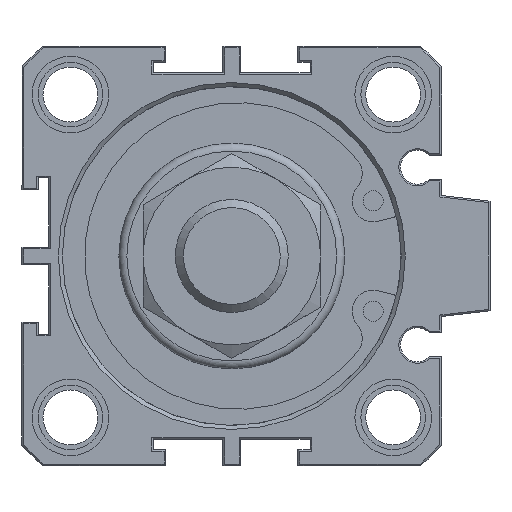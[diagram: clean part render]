
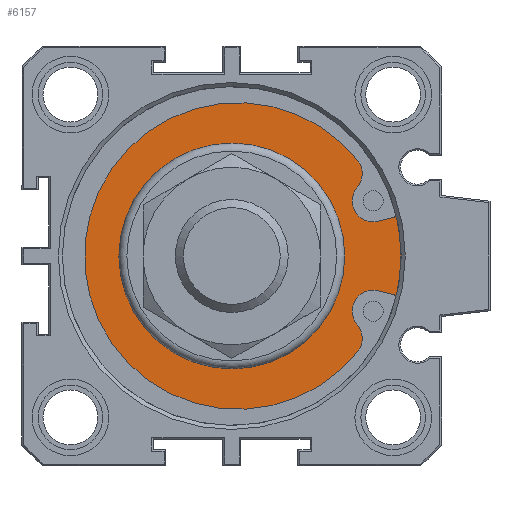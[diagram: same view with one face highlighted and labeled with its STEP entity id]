
A CAD part, front view. The second image highlights one B-rep face of the part: STEP entity #6157.
In plain terms, the highlighted planar face has unit normal (0, -1, 0).
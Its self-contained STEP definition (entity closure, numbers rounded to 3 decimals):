
#369=LINE('',#8753,#753);
#370=LINE('',#8765,#754);
#753=VECTOR('',#7401,1000.);
#754=VECTOR('',#7412,1000.);
#1378=ORIENTED_EDGE('',*,*,#2428,.F.);
#1379=ORIENTED_EDGE('',*,*,#2429,.F.);
#1380=ORIENTED_EDGE('',*,*,#2430,.T.);
#1381=ORIENTED_EDGE('',*,*,#2431,.T.);
#1382=ORIENTED_EDGE('',*,*,#2432,.T.);
#1383=ORIENTED_EDGE('',*,*,#2433,.T.);
#1384=ORIENTED_EDGE('',*,*,#2434,.T.);
#1385=ORIENTED_EDGE('',*,*,#2435,.T.);
#1386=ORIENTED_EDGE('',*,*,#2436,.T.);
#2428=EDGE_CURVE('',#2944,#2944,#3101,.F.);
#2429=EDGE_CURVE('',#2945,#2946,#3102,.T.);
#2430=EDGE_CURVE('',#2945,#2947,#369,.T.);
#2431=EDGE_CURVE('',#2947,#2948,#3103,.T.);
#2432=EDGE_CURVE('',#2948,#2949,#3104,.T.);
#2433=EDGE_CURVE('',#2949,#2950,#3105,.T.);
#2434=EDGE_CURVE('',#2950,#2951,#3106,.T.);
#2435=EDGE_CURVE('',#2951,#2952,#3107,.T.);
#2436=EDGE_CURVE('',#2952,#2946,#370,.T.);
#2944=VERTEX_POINT('',#8749);
#2945=VERTEX_POINT('',#8751);
#2946=VERTEX_POINT('',#8752);
#2947=VERTEX_POINT('',#8754);
#2948=VERTEX_POINT('',#8756);
#2949=VERTEX_POINT('',#8758);
#2950=VERTEX_POINT('',#8760);
#2951=VERTEX_POINT('',#8762);
#2952=VERTEX_POINT('',#8764);
#3101=CIRCLE('',#6528,14.);
#3102=CIRCLE('',#6529,22.25);
#3103=CIRCLE('',#6530,2.61);
#3104=CIRCLE('',#6531,2.61);
#3105=CIRCLE('',#6532,19.);
#3106=CIRCLE('',#6533,2.61);
#3107=CIRCLE('',#6534,2.61);
#3308=EDGE_LOOP('',(#1378));
#3309=EDGE_LOOP('',(#1379,#1380,#1381,#1382,#1383,#1384,#1385,#1386));
#3666=FACE_BOUND('',#3308,.T.);
#3667=FACE_BOUND('',#3309,.T.);
#3946=PLANE('',#6527);
#6157=ADVANCED_FACE('',(#3666,#3667),#3946,.F.);
#6527=AXIS2_PLACEMENT_3D('',#8747,#7395,#7396);
#6528=AXIS2_PLACEMENT_3D('',#8748,#7397,#7398);
#6529=AXIS2_PLACEMENT_3D('',#8750,#7399,#7400);
#6530=AXIS2_PLACEMENT_3D('',#8755,#7402,#7403);
#6531=AXIS2_PLACEMENT_3D('',#8757,#7404,#7405);
#6532=AXIS2_PLACEMENT_3D('',#8759,#7406,#7407);
#6533=AXIS2_PLACEMENT_3D('',#8761,#7408,#7409);
#6534=AXIS2_PLACEMENT_3D('',#8763,#7410,#7411);
#7395=DIRECTION('',(0.,1.,0.));
#7396=DIRECTION('',(-1.,0.,0.));
#7397=DIRECTION('',(0.,1.,0.));
#7398=DIRECTION('',(-1.,0.,0.));
#7399=DIRECTION('',(0.,1.,0.));
#7400=DIRECTION('',(-1.,0.,0.));
#7401=DIRECTION('',(-0.966,0.,-0.259));
#7402=DIRECTION('',(0.,1.,0.));
#7403=DIRECTION('',(1.,0.,0.));
#7404=DIRECTION('',(0.,-1.,0.));
#7405=DIRECTION('',(-1.,0.,0.));
#7406=DIRECTION('',(0.,-1.,0.));
#7407=DIRECTION('',(1.,0.,0.));
#7408=DIRECTION('',(0.,-1.,0.));
#7409=DIRECTION('',(-1.,0.,0.));
#7410=DIRECTION('',(0.,1.,0.));
#7411=DIRECTION('',(1.,0.,0.));
#7412=DIRECTION('',(0.966,0.,-0.259));
#8747=CARTESIAN_POINT('',(0.,4.,-3.4));
#8748=CARTESIAN_POINT('',(0.,4.,0.));
#8749=CARTESIAN_POINT('',(-14.,4.,0.));
#8750=CARTESIAN_POINT('',(0.,4.,0.));
#8751=CARTESIAN_POINT('',(21.626,4.,5.233));
#8752=CARTESIAN_POINT('',(21.626,4.,-5.233));
#8753=CARTESIAN_POINT('',(21.626,4.,5.233));
#8754=CARTESIAN_POINT('',(18.207,4.,4.317));
#8755=CARTESIAN_POINT('',(17.531,4.,6.838));
#8756=CARTESIAN_POINT('',(15.57,4.,8.56));
#8757=CARTESIAN_POINT('',(13.565,4.,10.23));
#8758=CARTESIAN_POINT('',(15.729,4.,11.688));
#8759=CARTESIAN_POINT('',(0.75,4.,0.));
#8760=CARTESIAN_POINT('',(15.729,4.,-11.688));
#8761=CARTESIAN_POINT('',(13.565,4.,-10.23));
#8762=CARTESIAN_POINT('',(15.57,4.,-8.56));
#8763=CARTESIAN_POINT('',(17.531,4.,-6.838));
#8764=CARTESIAN_POINT('',(18.207,4.,-4.317));
#8765=CARTESIAN_POINT('',(18.207,4.,-4.317));
